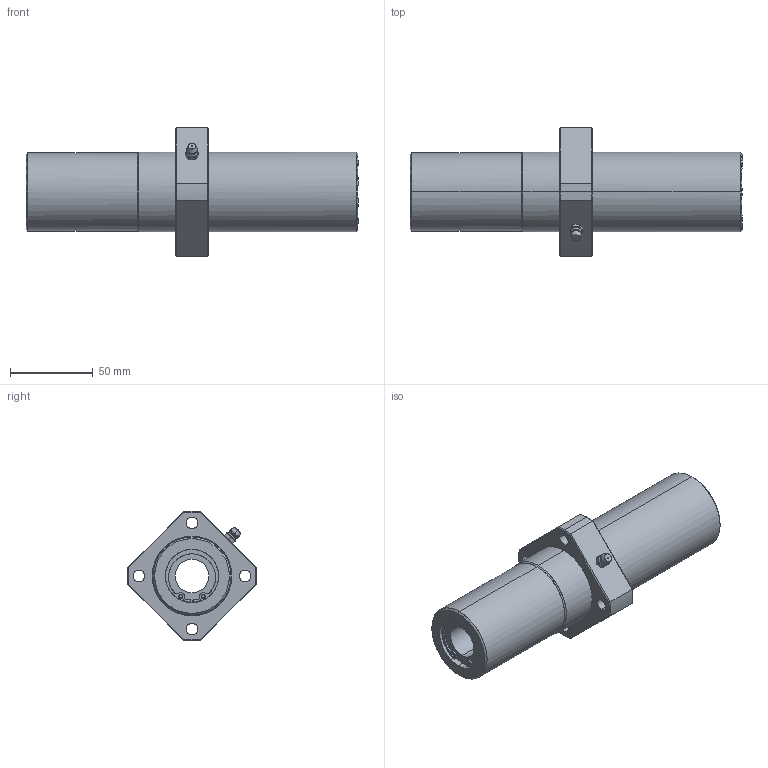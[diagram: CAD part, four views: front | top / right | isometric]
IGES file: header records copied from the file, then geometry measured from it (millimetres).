
Global section: file name: No Iges File Name specified; native system: AutoDesk Inventor R10; preprocessor: AutoDesk Inventor Iges Exporter R10; author: No Author specified; organization: No Organization specified; date: 20101214.141641; units: millimetre
Bounding box: 200 x 77.99 x 78 mm (x, y, z)
Surface area: 56934.2 mm2 (no closed solid volume)
Topology: 0 solids, 0 shells, 186 faces, 1219 edges, 1217 vertices
Faces by surface type: bspline 186
